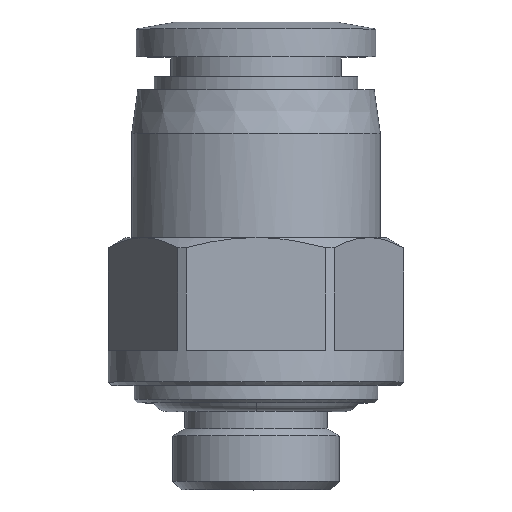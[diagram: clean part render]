
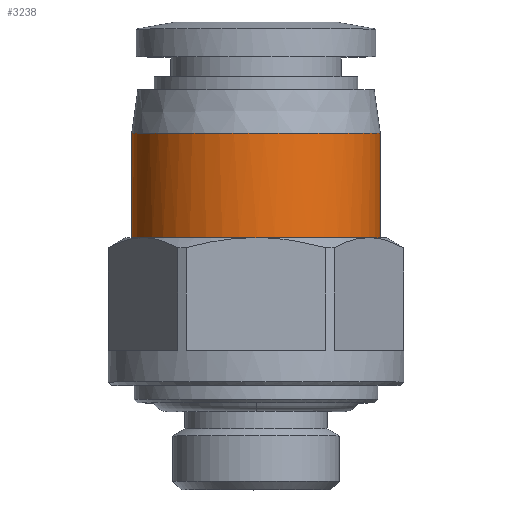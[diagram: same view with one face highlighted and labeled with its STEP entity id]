
A CAD part, top view. The second image highlights one B-rep face of the part: STEP entity #3238.
In plain terms, the highlighted cylindrical face has radius 7.15 mm (diameter 14.3 mm), a partial arc.
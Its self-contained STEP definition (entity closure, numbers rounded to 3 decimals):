
#17 = CARTESIAN_POINT ( 'NONE',  ( 6.921, 14.5, 1.855 ) ) ;
#41 = DIRECTION ( 'NONE',  ( 0., 1., 0. ) ) ;
#42 = CARTESIAN_POINT ( 'NONE',  ( -1.871, 20.5, 6.964 ) ) ;
#61 = CARTESIAN_POINT ( 'NONE',  ( -7.15, 14.5, 0. ) ) ;
#62 = CARTESIAN_POINT ( 'NONE',  ( -6.964, 20.5, 1.871 ) ) ;
#68 = CARTESIAN_POINT ( 'NONE',  ( 3.582, 14.5, 6.206 ) ) ;
#82 = CARTESIAN_POINT ( 'NONE',  ( -4.362, 14.5, 5.684 ) ) ;
#117 = EDGE_CURVE ( 'NONE', #2320, #2609, #3297, .T. ) ;
#296 = EDGE_CURVE ( 'NONE', #1637, #2609, #2552, .T. ) ;
#393 = DIRECTION ( 'NONE',  ( 0., 1., 0. ) ) ;
#484 = ORIENTED_EDGE ( 'NONE', *, *, #117, .T. ) ;
#489 = CARTESIAN_POINT ( 'NONE',  ( 5.684, 14.5, 4.362 ) ) ;
#585 = CARTESIAN_POINT ( 'NONE',  ( 6.248, 20.5, 3.601 ) ) ;
#593 = CARTESIAN_POINT ( 'NONE',  ( -0.469, 14.5, 7.15 ) ) ;
#740 = CARTESIAN_POINT ( 'NONE',  ( 7.15, 14.5, 0. ) ) ;
#749 = CARTESIAN_POINT ( 'NONE',  ( -7.15, 20.5, 0. ) ) ;
#802 = CARTESIAN_POINT ( 'NONE',  ( 3.601, 20.5, 6.248 ) ) ;
#811 = CARTESIAN_POINT ( 'NONE',  ( 6.206, 14.5, 3.582 ) ) ;
#828 = CARTESIAN_POINT ( 'NONE',  ( 2.303, 14.5, 6.785 ) ) ;
#926 = DIRECTION ( 'NONE',  ( 0., 1., 0. ) ) ;
#993 = CARTESIAN_POINT ( 'NONE',  ( 6.426, 14.5, 3.17 ) ) ;
#1023 = EDGE_LOOP ( 'NONE', ( #3009, #2703, #484, #1728 ) ) ;
#1082 = CARTESIAN_POINT ( 'NONE',  ( -4.394, 20.5, 5.718 ) ) ;
#1086 = CARTESIAN_POINT ( 'NONE',  ( -7.104, 14.5, 0.935 ) ) ;
#1097 = CARTESIAN_POINT ( 'NONE',  ( -7.15, 20.5, 0.936 ) ) ;
#1102 = CARTESIAN_POINT ( 'NONE',  ( -1.855, 14.5, 6.921 ) ) ;
#1119 = CARTESIAN_POINT ( 'NONE',  ( -3.17, 14.5, 6.426 ) ) ;
#1331 = LINE ( 'NONE', #2066, #2118 ) ;
#1348 = CARTESIAN_POINT ( 'NONE',  ( -3.601, 20.5, 6.248 ) ) ;
#1362 = VERTEX_POINT ( 'NONE', #1970 ) ;
#1365 = CARTESIAN_POINT ( 'NONE',  ( 7.15, 20.5, 0. ) ) ;
#1370 = CARTESIAN_POINT ( 'NONE',  ( -3.582, 14.5, 6.206 ) ) ;
#1407 = CARTESIAN_POINT ( 'NONE',  ( -5.388, 14.5, 4.724 ) ) ;
#1554 = CARTESIAN_POINT ( 'NONE',  ( 7.15, 14.5, 0.469 ) ) ;
#1593 = CARTESIAN_POINT ( 'NONE',  ( 0.935, 14.5, 7.104 ) ) ;
#1606 = EDGE_CURVE ( 'NONE', #1362, #2320, #1331, .T. ) ;
#1610 = CARTESIAN_POINT ( 'NONE',  ( -2.303, 14.5, 6.785 ) ) ;
#1623 = CARTESIAN_POINT ( 'NONE',  ( -6.248, 20.5, 3.601 ) ) ;
#1637 = VERTEX_POINT ( 'NONE', #61 ) ;
#1663 = CARTESIAN_POINT ( 'NONE',  ( 7.15, 20.5, 0. ) ) ;
#1665 = CARTESIAN_POINT ( 'NONE',  ( 1.855, 14.5, 6.921 ) ) ;
#1694 = DIRECTION ( 'NONE',  ( -1., 0., 0. ) ) ;
#1724 = CARTESIAN_POINT ( 'NONE',  ( 0., 17.5, 0. ) ) ;
#1728 = ORIENTED_EDGE ( 'NONE', *, *, #296, .F. ) ;
#1847 = CARTESIAN_POINT ( 'NONE',  ( 1.871, 20.5, 6.964 ) ) ;
#1889 = CARTESIAN_POINT ( 'NONE',  ( 3.17, 14.5, 6.426 ) ) ;
#1924 = CARTESIAN_POINT ( 'NONE',  ( -6.921, 14.5, 1.855 ) ) ;
#1970 = CARTESIAN_POINT ( 'NONE',  ( 7.15, 14.5, 0. ) ) ;
#1998 = CARTESIAN_POINT ( 'NONE',  ( -7.15, 17.5, 0. ) ) ;
#2066 = CARTESIAN_POINT ( 'NONE',  ( 7.15, 17.5, 0. ) ) ;
#2118 = VECTOR ( 'NONE', #41, 1000. ) ;
#2129 = CARTESIAN_POINT ( 'NONE',  ( -6.206, 14.5, 3.582 ) ) ;
#2145 = CARTESIAN_POINT ( 'NONE',  ( -6.426, 14.5, 3.17 ) ) ;
#2320 = VERTEX_POINT ( 'NONE', #1663 ) ;
#2333 = AXIS2_PLACEMENT_3D ( 'NONE', #1724, #393, #1694 ) ;
#2381 = CARTESIAN_POINT ( 'NONE',  ( -0.936, 20.5, 7.15 ) ) ;
#2401 = CARTESIAN_POINT ( 'NONE',  ( -5.718, 20.5, 4.394 ) ) ;
#2405 = CARTESIAN_POINT ( 'NONE',  ( 4.362, 14.5, 5.684 ) ) ;
#2419 = CARTESIAN_POINT ( 'NONE',  ( 5.387, 14.5, 4.724 ) ) ;
#2459 = CYLINDRICAL_SURFACE ( 'NONE', #2333, 7.15 ) ;
#2477 = FACE_OUTER_BOUND ( 'NONE', #1023, .T. ) ;
#2552 = LINE ( 'NONE', #1998, #3033 ) ;
#2609 = VERTEX_POINT ( 'NONE', #749 ) ;
#2630 = CARTESIAN_POINT ( 'NONE',  ( 0.936, 20.5, 7.15 ) ) ;
#2655 = CARTESIAN_POINT ( 'NONE',  ( -6.785, 14.5, 2.303 ) ) ;
#2668 = CARTESIAN_POINT ( 'NONE',  ( -7.15, 20.5, 0. ) ) ;
#2703 = ORIENTED_EDGE ( 'NONE', *, *, #1606, .T. ) ;
#2705 = CARTESIAN_POINT ( 'NONE',  ( -7.15, 14.5, 0. ) ) ;
#2821 = CARTESIAN_POINT ( 'NONE',  ( 6.785, 14.5, 2.303 ) ) ;
#2862 = CARTESIAN_POINT ( 'NONE',  ( 5.718, 20.5, 4.394 ) ) ;
#2887 = B_SPLINE_CURVE_WITH_KNOTS ( 'NONE', 3,
 ( #740, #1554, #3155, #17, #2821, #993, #811, #489, #2419, #2893, #2405, #68, #1889, #828, #1665, #1593, #2925, #593, #2961, #1102, #1610, #1119, #1370, #82, #3170, #1407, #2908, #2129, #2145, #2655, #1924, #1086, #3186, #2705 ),
 .UNSPECIFIED., .F., .F.,
 ( 4, 2, 2, 2, 2, 2, 2, 2, 2, 2, 2, 2, 2, 2, 2, 2, 4 ),
 ( 0.5, 0.531, 0.563, 0.594, 0.625, 0.656, 0.688, 0.719, 0.75, 0.781, 0.813, 0.844, 0.875, 0.906, 0.938, 0.969, 1. ),
 .UNSPECIFIED. ) ;
#2893 = CARTESIAN_POINT ( 'NONE',  ( 4.724, 14.5, 5.388 ) ) ;
#2908 = CARTESIAN_POINT ( 'NONE',  ( -5.684, 14.5, 4.362 ) ) ;
#2917 = CARTESIAN_POINT ( 'NONE',  ( 6.964, 20.5, 1.871 ) ) ;
#2925 = CARTESIAN_POINT ( 'NONE',  ( 0.469, 14.5, 7.15 ) ) ;
#2928 = EDGE_CURVE ( 'NONE', #1362, #1637, #2887, .T. ) ;
#2961 = CARTESIAN_POINT ( 'NONE',  ( -0.935, 14.5, 7.104 ) ) ;
#3009 = ORIENTED_EDGE ( 'NONE', *, *, #2928, .F. ) ;
#3033 = VECTOR ( 'NONE', #926, 1000. ) ;
#3127 = CARTESIAN_POINT ( 'NONE',  ( 7.15, 20.5, 0.936 ) ) ;
#3146 = CARTESIAN_POINT ( 'NONE',  ( 4.394, 20.5, 5.718 ) ) ;
#3155 = CARTESIAN_POINT ( 'NONE',  ( 7.104, 14.5, 0.935 ) ) ;
#3170 = CARTESIAN_POINT ( 'NONE',  ( -4.724, 14.5, 5.387 ) ) ;
#3186 = CARTESIAN_POINT ( 'NONE',  ( -7.15, 14.5, 0.47 ) ) ;
#3238 = ADVANCED_FACE ( 'NONE', ( #2477 ), #2459, .T. ) ;
#3297 = B_SPLINE_CURVE_WITH_KNOTS ( 'NONE', 3,
 ( #1365, #3127, #2917, #585, #2862, #3146, #802, #1847, #2630, #2381, #42, #1348, #1082, #2401, #1623, #62, #1097, #2668 ),
 .UNSPECIFIED., .F., .F.,
 ( 4, 2, 2, 2, 2, 2, 2, 2, 4 ),
 ( 0.5, 0.563, 0.625, 0.688, 0.75, 0.813, 0.875, 0.938, 1. ),
 .UNSPECIFIED. ) ;
